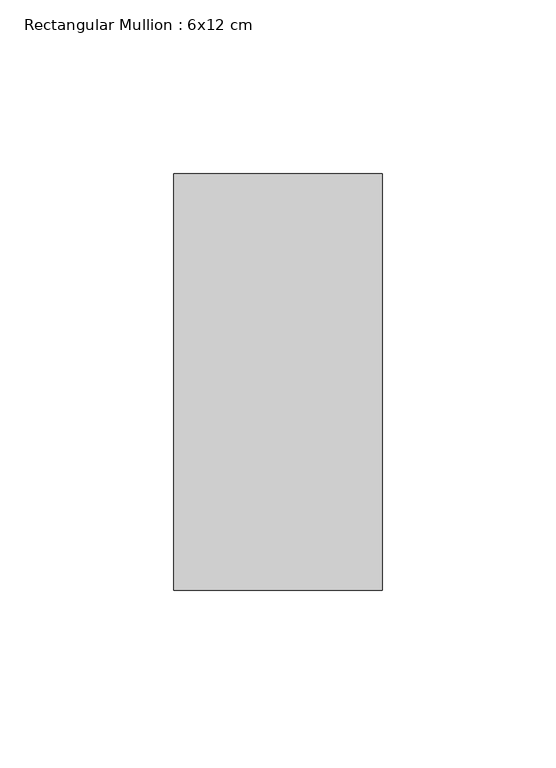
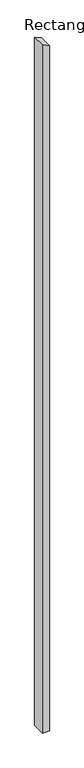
"""IFC4 building model written with IfcOpenShell, lengths in millimetres: member geometry, Rectangular Mullion : 6x12 cm."""

from ifc_helpers import new_model, si_unit, frame, origin, place, context, project, spatial, polyline, outline, extrude, source, transform, mapped, element, save


def rectangular_mullion_6x12_cm_e8c4a6bc(model_context):
    return source(origin(), model_context, "Body", "SweptSolid", [
        extrude(outline(polyline([(-53.2294579, 30.0), (-25.4423642, -30.0), (-6467.5093023, -30.0), (-6467.5093023, 30.0), (-53.2294579, 30.0)])), frame((0.0, 85.0, 0.0), z_axis=(0.0, 1.0, 0.0), x_axis=(0.0, 0.0, 1.0)), (0.0, 0.0, 1.0), 120.0),
    ])


if __name__ == "__main__":
    model = new_model("IFC4")
    model_context = context("Model", 3, world=origin())
    ifc_project = project(units=[si_unit("LENGTHUNIT", "METRE", prefix="MILLI")], contexts=[model_context])
    site = spatial("IfcSite", under=ifc_project)
    building = spatial("IfcBuilding", under=site)
    placement = place(None, origin())
    rectangular_mullion_6x12_cm_shape = rectangular_mullion_6x12_cm_e8c4a6bc(model_context)
    element("IfcMember", 1, ObjectType="Rectangular Mullion : 6x12 cm", at=placement, inside=building, context=model_context, shape_type="MappedRepresentation", body=[
        mapped(rectangular_mullion_6x12_cm_shape, transform((0.0, 0.0, 0.0), x_axis=(1.0, 0.0, 0.0), y_axis=(0.0, 1.0, 0.0), z_axis=(0.0, 0.0, 1.0))),
    ])
    save(model, "model.ifc")
